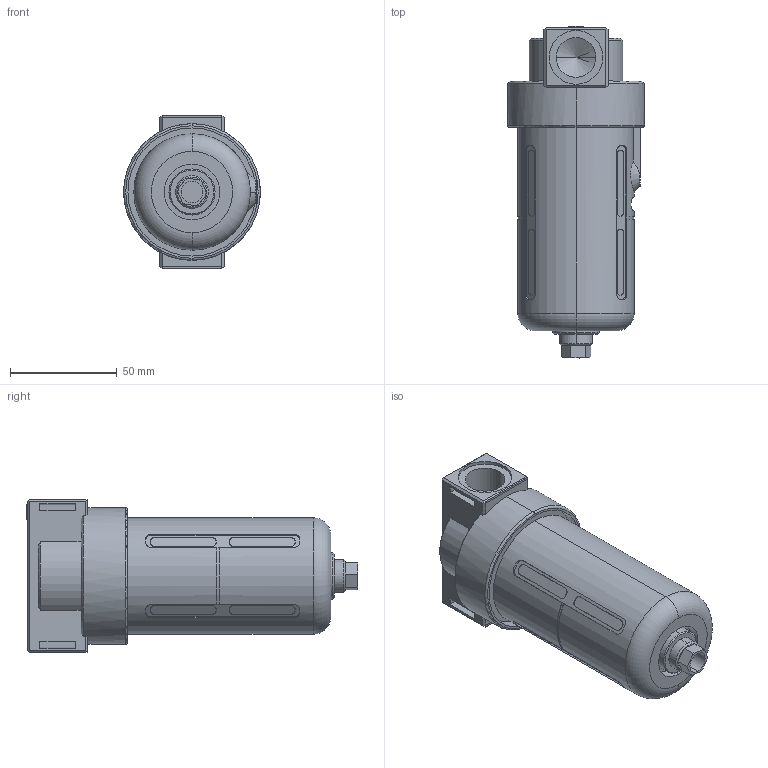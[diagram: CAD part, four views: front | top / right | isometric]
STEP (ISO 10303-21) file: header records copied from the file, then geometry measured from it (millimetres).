
FILE_DESCRIPTION (( 'STEP AP214' ), '1' );
FILE_NAME ('BF-4000.STEP', '2016-01-21T15:36:05', ( '' ), ( '' ), 'SwSTEP 2.0', 'SolidWorks 2016', '' );
FILE_SCHEMA (( 'AUTOMOTIVE_DESIGN' ));
Length unit declared in the file: millimetre
Products named in the file (3): 1; 2; BF-4000
Assembly tree (2 placements, depth 2):
  BF-4000
    1
    2
Bounding box: 64 x 155.45 x 72 mm (x, y, z)
Volume: 156340.6 mm3; surface area: 64896.1 mm2
Topology: 2 solids, 2 shells, 407 faces, 1073 edges, 703 vertices
Faces by surface type: plane 242, cylinder 134, cone 25, torus 6
Entity records: 18096 total; most frequent: CARTESIAN_POINT 3290, ORIENTED_EDGE 2138, DIRECTION 2128, EDGE_CURVE 1069, AXIS2_PLACEMENT_3D 710, LINE 708, VECTOR 708, VERTEX_POINT 703
